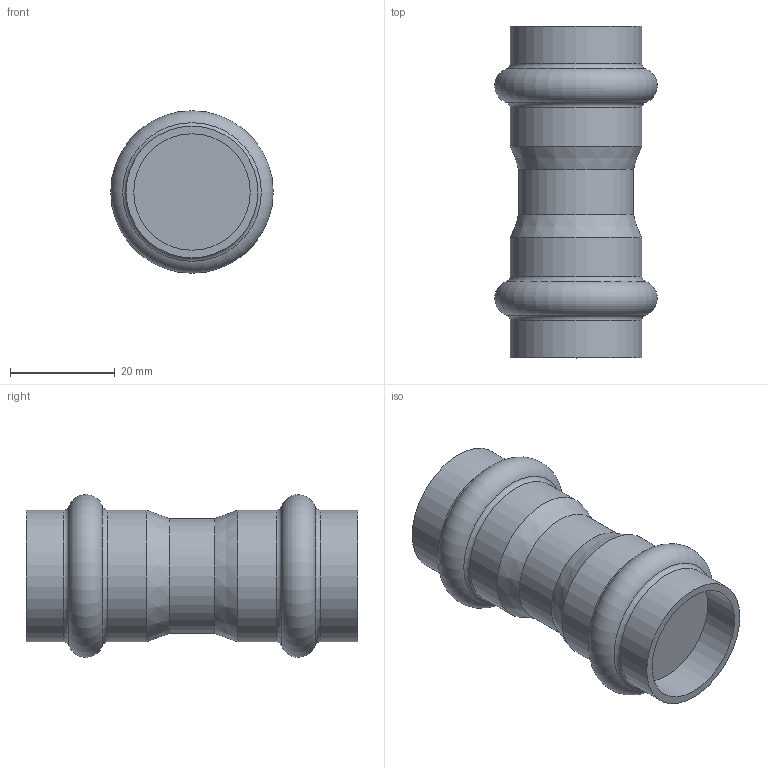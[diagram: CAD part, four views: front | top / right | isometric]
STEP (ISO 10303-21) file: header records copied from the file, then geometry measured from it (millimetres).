
FILE_DESCRIPTION(('STEP AP203'), '1');
FILE_NAME('VTi.903.I.002222', '', ('UNSPECIFIED'), ('UNSPECIFIED'), 'C3D Converter', 'C3D Toolkit', '');
FILE_SCHEMA(('CONFIG_CONTROL_DESIGN'));
Length unit declared in the file: millimetre
Bounding box: 31.1 x 63.5 x 31.1 mm (x, y, z)
Volume: 27143.6 mm3; surface area: 7585 mm2
Topology: 1 solids, 1 shells, 19 faces, 33 edges, 18 vertices
Faces by surface type: cylinder 7, torus 6, plane 4, cone 2
Full cylindrical faces by diameter (mm): 22 x1, 22.3 x2, 25.2 x4
Entity records: 414 total; most frequent: DIRECTION 76, CARTESIAN_POINT 56, AXIS2_PLACEMENT_3D 38, EDGE_LOOP 36, ORIENTED_EDGE 36, FACE_OUTER_BOUND 30, ADVANCED_FACE 19, EDGE_CURVE 18
